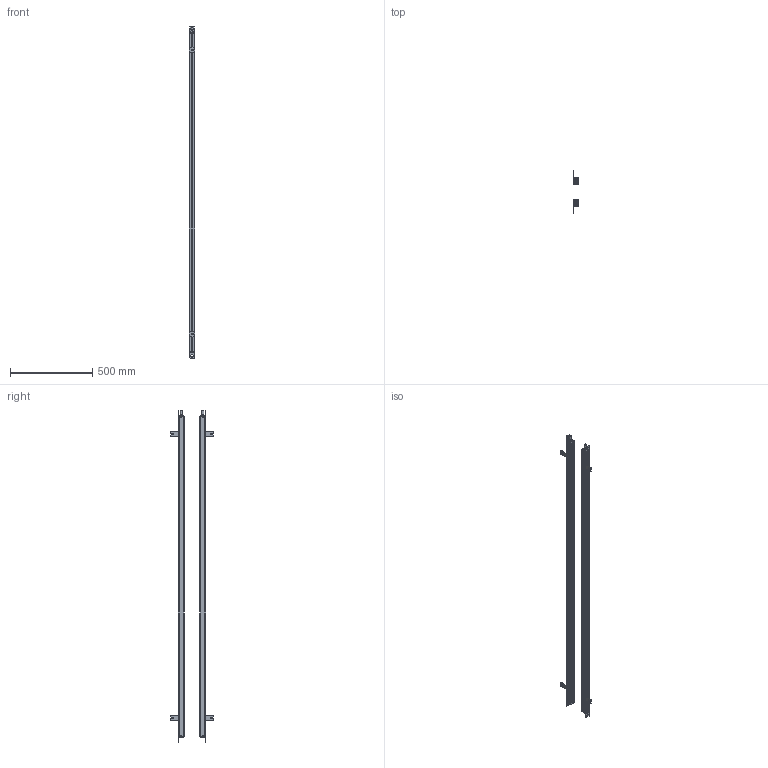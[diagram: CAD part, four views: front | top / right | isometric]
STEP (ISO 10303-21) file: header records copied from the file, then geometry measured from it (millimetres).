
FILE_DESCRIPTION(/* description */ (''),/* implementation_level */ '2;1');
FILE_NAME(/* name */ '4840_35X35.stp',/* time_stamp */ '2023-09-18T16:04:33+08:00',/* author */ (''),/* organization */ (''),/* preprocessor_version */ 'ST-DEVELOPER v16.7',/* originating_system */ 'SIEMENS PLM Software NX 12.0',/* authorisation */ '');
FILE_SCHEMA (('AP203_CONFIGURATION_CONTROLLED_3D_DESIGN_OF_MECHANICAL_PARTS_AND_ASSEMBLIES_MIM_LF { 1 0 10303 403 2 1 2}'));
Length unit declared in the file: millimetre
Products named in the file (1): 4840_35X35_stp
Bounding box: 35.41 x 258.01 x 2021.6 mm (x, y, z)
Volume: 1866982.7 mm3; surface area: 1395969.2 mm2
Topology: 28 solids, 28 shells, 1182 faces, 3360 edges, 2260 vertices
Faces by surface type: plane 658, cylinder 464, cone 60
Full cylindrical faces by diameter (mm): 3.2 x8, 6 x24, 13 x2, 14.4 x2, 15 x2
Entity records: 39055 total; most frequent: DIRECTION 6832, CARTESIAN_POINT 6745, ORIENTED_EDGE 6612, EDGE_CURVE 3306, AXIS2_PLACEMENT_3D 2347, VERTEX_POINT 2244, LINE 2138, VECTOR 2138
